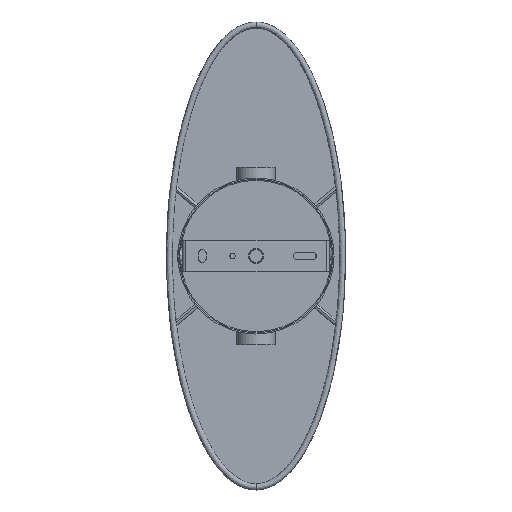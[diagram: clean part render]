
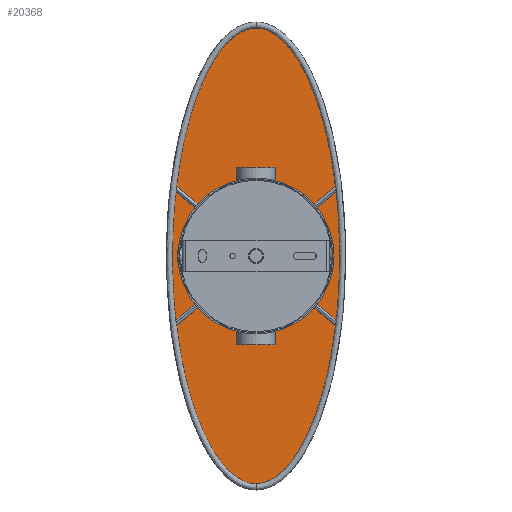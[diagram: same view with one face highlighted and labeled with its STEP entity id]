
A CAD part, front view. The second image highlights one B-rep face of the part: STEP entity #20368.
In plain terms, the highlighted planar face has unit normal (0, -1, 0).
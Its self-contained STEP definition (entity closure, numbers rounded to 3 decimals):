
#484 = CARTESIAN_POINT ( 'NONE',  ( -145.263, 119., -13.467 ) ) ;
#1055 = CARTESIAN_POINT ( 'NONE',  ( 0., 119., 0. ) ) ;
#1452 = CARTESIAN_POINT ( 'NONE',  ( 100.785, 119., 42.095 ) ) ;
#2031 = CARTESIAN_POINT ( 'NONE',  ( -46.571, 119., -54.093 ) ) ;
#2136 = CARTESIAN_POINT ( 'NONE',  ( -75.337, 119., -49.183 ) ) ;
#2340 = FACE_BOUND ( 'NONE', #14157, .T. ) ;
#2921 = CARTESIAN_POINT ( 'NONE',  ( 0., 119., 20. ) ) ;
#3205 = CARTESIAN_POINT ( 'NONE',  ( -100.785, 119., 42.095 ) ) ;
#3448 = CARTESIAN_POINT ( 'NONE',  ( -149., 119., -1.993 ) ) ;
#4217 = CIRCLE ( 'NONE', #16766, 20. ) ;
#4389 = PLANE ( 'NONE',  #18662 ) ;
#4547 = EDGE_LOOP ( 'NONE', ( #10613, #20852 ) ) ;
#4828 = CARTESIAN_POINT ( 'NONE',  ( 15.755, 119., 56.604 ) ) ;
#5192 = CARTESIAN_POINT ( 'NONE',  ( 149., 119., 0. ) ) ;
#5298 = CARTESIAN_POINT ( 'NONE',  ( 121.784, 119., -33.152 ) ) ;
#5398 = CARTESIAN_POINT ( 'NONE',  ( 75.337, 119., -49.183 ) ) ;
#5439 = B_SPLINE_CURVE_WITH_KNOTS ( 'NONE', 3,
 ( #11390, #6460, #19788, #10070, #6894, #11610, #3205, #8093, #14980, #19898, #4828, #16727, #14762, #1452, #11497, #13352, #10178, #18138, #9857, #13244 ),
 .UNSPECIFIED., .F., .F.,
 ( 4, 1, 1, 1, 1, 1, 1, 1, 1, 1, 1, 1, 1, 1, 1, 1, 1, 4 ),
 ( 0., 0.032, 0.067, 0.133, 0.2, 0.267, 0.333, 0.4, 0.467, 0.533, 0.6, 0.667, 0.733, 0.8, 0.867, 0.933, 0.965, 1. ),
 .UNSPECIFIED. ) ;
#5512 = CARTESIAN_POINT ( 'NONE',  ( -137.395, 119., -22.778 ) ) ;
#5584 = ORIENTED_EDGE ( 'NONE', *, *, #9325, .F. ) ;
#5857 = DIRECTION ( 'NONE',  ( 0., 0., 1. ) ) ;
#6036 = CARTESIAN_POINT ( 'NONE',  ( 0., 119., 0. ) ) ;
#6460 = CARTESIAN_POINT ( 'NONE',  ( -149., 119., 1.84 ) ) ;
#6720 = CARTESIAN_POINT ( 'NONE',  ( 46.571, 119., -54.093 ) ) ;
#6894 = CARTESIAN_POINT ( 'NONE',  ( -137.395, 119., 22.778 ) ) ;
#6928 = CARTESIAN_POINT ( 'NONE',  ( 149., 119., -1.84 ) ) ;
#7138 = CARTESIAN_POINT ( 'NONE',  ( -149., 119., 0. ) ) ;
#7493 = VERTEX_POINT ( 'NONE', #8930 ) ;
#7496 = B_SPLINE_CURVE_WITH_KNOTS ( 'NONE', 3,
 ( #5192, #6928, #13596, #20231, #20037, #5298, #15438, #5398, #6720, #20447, #18604, #2031, #2136, #13386, #12058, #5512, #484, #18819, #3448, #7138 ),
 .UNSPECIFIED., .F., .F.,
 ( 4, 1, 1, 1, 1, 1, 1, 1, 1, 1, 1, 1, 1, 1, 1, 1, 1, 4 ),
 ( 0., 0.032, 0.067, 0.133, 0.2, 0.267, 0.333, 0.4, 0.467, 0.533, 0.6, 0.667, 0.733, 0.8, 0.867, 0.933, 0.965, 1. ),
 .UNSPECIFIED. ) ;
#7632 = CARTESIAN_POINT ( 'NONE',  ( 0., 119., -20. ) ) ;
#7886 = VERTEX_POINT ( 'NONE', #7632 ) ;
#8093 = CARTESIAN_POINT ( 'NONE',  ( -75.337, 119., 49.183 ) ) ;
#8754 = CIRCLE ( 'NONE', #19218, 20. ) ;
#8930 = CARTESIAN_POINT ( 'NONE',  ( 149., 119., 0. ) ) ;
#9325 = EDGE_CURVE ( 'NONE', #14635, #7886, #8754, .T. ) ;
#9571 = EDGE_CURVE ( 'NONE', #7493, #20840, #7496, .T. ) ;
#9827 = CARTESIAN_POINT ( 'NONE',  ( -149., 119., 0. ) ) ;
#9857 = CARTESIAN_POINT ( 'NONE',  ( 149., 119., 1.993 ) ) ;
#10070 = CARTESIAN_POINT ( 'NONE',  ( -145.389, 119., 13.317 ) ) ;
#10178 = CARTESIAN_POINT ( 'NONE',  ( 145.263, 119., 13.467 ) ) ;
#10613 = ORIENTED_EDGE ( 'NONE', *, *, #18057, .F. ) ;
#10844 = DIRECTION ( 'NONE',  ( 0., 1., 0. ) ) ;
#10857 = ORIENTED_EDGE ( 'NONE', *, *, #12200, .F. ) ;
#11390 = CARTESIAN_POINT ( 'NONE',  ( -149., 119., 0. ) ) ;
#11497 = CARTESIAN_POINT ( 'NONE',  ( 121.784, 119., 33.152 ) ) ;
#11610 = CARTESIAN_POINT ( 'NONE',  ( -121.784, 119., 33.152 ) ) ;
#12058 = CARTESIAN_POINT ( 'NONE',  ( -121.784, 119., -33.152 ) ) ;
#12200 = EDGE_CURVE ( 'NONE', #7886, #14635, #4217, .T. ) ;
#13244 = CARTESIAN_POINT ( 'NONE',  ( 149., 119., 0. ) ) ;
#13352 = CARTESIAN_POINT ( 'NONE',  ( 137.395, 119., 22.778 ) ) ;
#13386 = CARTESIAN_POINT ( 'NONE',  ( -100.785, 119., -42.095 ) ) ;
#13596 = CARTESIAN_POINT ( 'NONE',  ( 148.498, 119., -5.672 ) ) ;
#14145 = DIRECTION ( 'NONE',  ( 0., -1., 0. ) ) ;
#14157 = EDGE_LOOP ( 'NONE', ( #10857, #5584 ) ) ;
#14635 = VERTEX_POINT ( 'NONE', #2921 ) ;
#14670 = DIRECTION ( 'NONE',  ( 0., -1., 0. ) ) ;
#14762 = CARTESIAN_POINT ( 'NONE',  ( 75.337, 119., 49.183 ) ) ;
#14980 = CARTESIAN_POINT ( 'NONE',  ( -46.571, 119., 54.093 ) ) ;
#15438 = CARTESIAN_POINT ( 'NONE',  ( 100.785, 119., -42.095 ) ) ;
#16727 = CARTESIAN_POINT ( 'NONE',  ( 46.571, 119., 54.093 ) ) ;
#16766 = AXIS2_PLACEMENT_3D ( 'NONE', #19477, #14670, #21322 ) ;
#17265 = FACE_OUTER_BOUND ( 'NONE', #4547, .T. ) ;
#17701 = DIRECTION ( 'NONE',  ( 1., 0., 0. ) ) ;
#18057 = EDGE_CURVE ( 'NONE', #20840, #7493, #5439, .T. ) ;
#18138 = CARTESIAN_POINT ( 'NONE',  ( 148.456, 119., 5.825 ) ) ;
#18604 = CARTESIAN_POINT ( 'NONE',  ( -15.755, 119., -56.604 ) ) ;
#18662 = AXIS2_PLACEMENT_3D ( 'NONE', #6036, #10844, #17701 ) ;
#18819 = CARTESIAN_POINT ( 'NONE',  ( -148.456, 119., -5.825 ) ) ;
#19218 = AXIS2_PLACEMENT_3D ( 'NONE', #1055, #14145, #5857 ) ;
#19477 = CARTESIAN_POINT ( 'NONE',  ( 0., 119., 0. ) ) ;
#19788 = CARTESIAN_POINT ( 'NONE',  ( -148.498, 119., 5.672 ) ) ;
#19898 = CARTESIAN_POINT ( 'NONE',  ( -15.755, 119., 56.604 ) ) ;
#20037 = CARTESIAN_POINT ( 'NONE',  ( 137.395, 119., -22.778 ) ) ;
#20231 = CARTESIAN_POINT ( 'NONE',  ( 145.389, 119., -13.317 ) ) ;
#20368 = ADVANCED_FACE ( 'NONE', ( #2340, #17265 ), #4389, .F. ) ;
#20447 = CARTESIAN_POINT ( 'NONE',  ( 15.755, 119., -56.604 ) ) ;
#20840 = VERTEX_POINT ( 'NONE', #9827 ) ;
#20852 = ORIENTED_EDGE ( 'NONE', *, *, #9571, .F. ) ;
#21322 = DIRECTION ( 'NONE',  ( 0., 0., -1. ) ) ;
